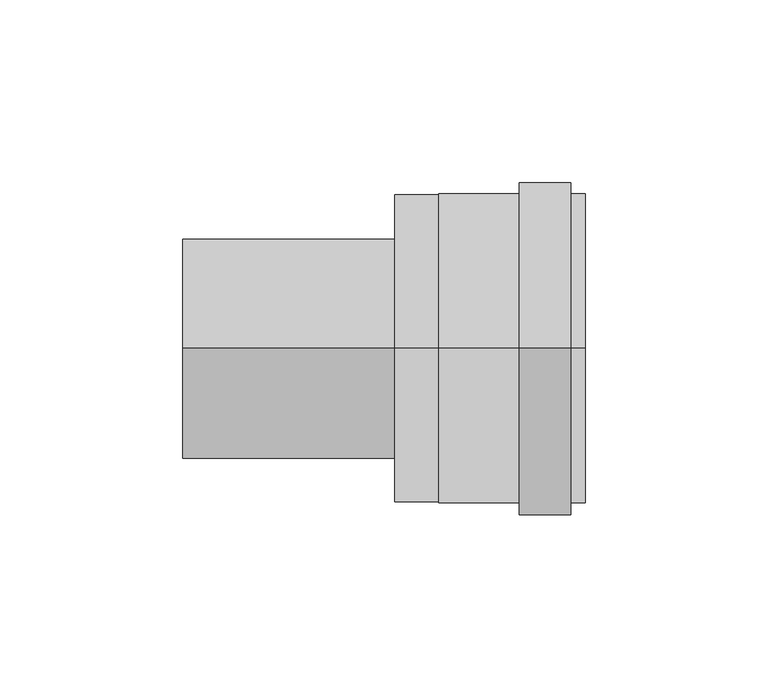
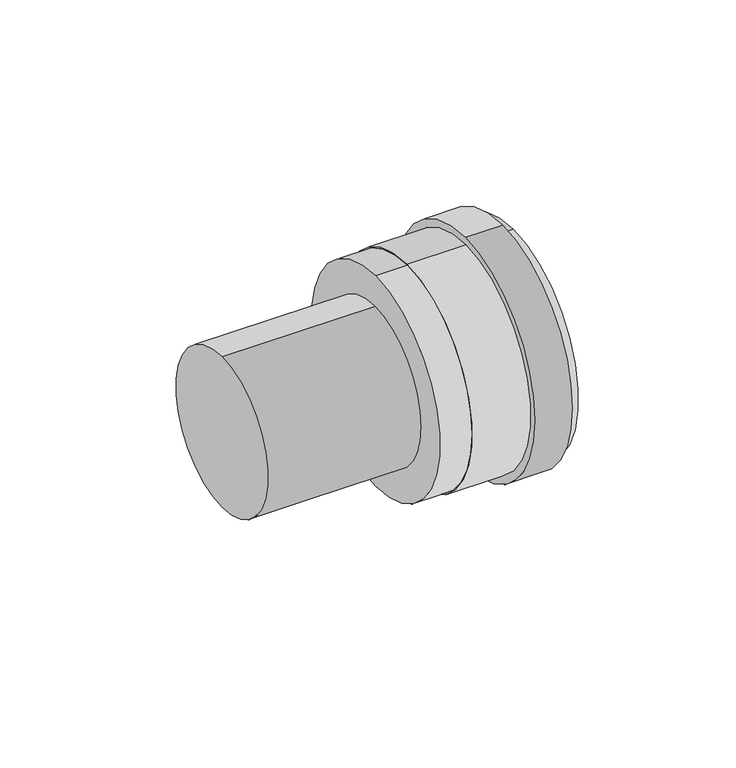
"""IFC4 building model written with IfcOpenShell, lengths in millimetres: duct fitting geometry, RSFen_DUF_UN_Twinline Expander_M&G : ø60-80-100-130-150-200."""

from ifc_helpers import new_model, si_unit, point, frame, origin, origin_2d, place, context, project, spatial, polyline, circle_curve, trimmed, segment, composite_curve, outline, extrude, source, transform, mapped, element, save
from ifc_brep_helpers import plane_surface, cylinder_surface, revolved_surface, advanced_brep


def duct_fitting_32ee2810(model_context):
    return source(origin(), model_context, "Body", "SolidModel", [
        extrude(outline(composite_curve([segment(trimmed(circle_curve(origin_2d(), 45.5), [point((0.0, 45.5))], [point((0.0, -45.5))], False, "CARTESIAN"), True, "CONTINUOUS"), segment(trimmed(circle_curve(origin_2d(), 45.5), [point((0.0, -45.5))], [point((0.0, 45.5))], False, "CARTESIAN"), True, "CONTINUOUS")], self_intersect=False), holes=[composite_curve([segment(trimmed(circle_curve(origin_2d(), 42.5), [point((0.0, -42.5))], [point((0.0, 42.5))], True, "CARTESIAN"), True, "CONTINUOUS"), segment(trimmed(circle_curve(origin_2d(), 42.5), [point((0.0, 42.5))], [point((0.0, -42.5))], True, "CARTESIAN"), True, "CONTINUOUS")], self_intersect=False)]), frame((92.0, 0.0, 0.0), z_axis=(1.0, 0.0, 0.0), x_axis=(0.0, 1.0, 0.0)), (0.0, 0.0, 1.0), 14.0),
        advanced_brep(
        [(110.0, 0.0, 42.5), (110.0, 0.0, -42.5), (110.0, 0.0, -40.0), (110.0, 0.0, 40.0), (70.0, 0.0, 42.5), (70.0, 0.0, -42.5), (70.0, 0.0, -40.0), (70.0, 0.0, 40.0), (58.0, 0.0, 42.0), (58.0, 0.0, -42.0), (70.0, 0.0, -42.0), (70.0, 0.0, 42.0)],
        [
            (0, 1, circle_curve(frame((110.0, 0.0, 0.0), z_axis=(1.0, 0.0, 0.0), x_axis=(0.0, 0.0, -1.0)), 42.5)),
            (1, 0, circle_curve(frame((110.0, 0.0, 0.0), z_axis=(1.0, 0.0, 0.0), x_axis=(0.0, 0.0, -1.0)), 42.5)),
            (2, 3, circle_curve(frame((110.0, 0.0, 0.0), z_axis=(-1.0, 0.0, 0.0), x_axis=(0.0, 0.0, 1.0)), 40.0)),
            (3, 2, circle_curve(frame((110.0, 0.0, 0.0), z_axis=(-1.0, 0.0, 0.0), x_axis=(0.0, 0.0, 1.0)), 40.0)),
            (4, 5, circle_curve(frame((70.0, 0.0, 0.0), z_axis=(1.0, 0.0, 0.0), x_axis=(0.0, 0.0, -1.0)), 42.5)),
            (5, 1),
            (0, 4),
            (5, 4, circle_curve(frame((70.0, 0.0, 0.0), z_axis=(1.0, 0.0, 0.0), x_axis=(0.0, 0.0, -1.0)), 42.5)),
            (2, 6),
            (6, 7, circle_curve(frame((70.0, 0.0, 0.0), z_axis=(-1.0, 0.0, 0.0), x_axis=(0.0, 0.0, 1.0)), 40.0)),
            (7, 3),
            (7, 6, circle_curve(frame((70.0, 0.0, 0.0), z_axis=(-1.0, 0.0, 0.0), x_axis=(0.0, 0.0, 1.0)), 40.0)),
            (8, 9, circle_curve(frame((58.0, 0.0, 0.0), z_axis=(-1.0, 0.0, 0.0), x_axis=(0.0, 0.0, -1.0)), 42.0)),
            (9, 8, circle_curve(frame((58.0, 0.0, 0.0), z_axis=(-1.0, 0.0, 0.0), x_axis=(0.0, 0.0, -1.0)), 42.0)),
            (9, 10),
            (10, 11, circle_curve(frame((70.0, 0.0, 0.0), z_axis=(-1.0, 0.0, 0.0), x_axis=(0.0, 0.0, -1.0)), 42.0)),
            (11, 8),
            (11, 10, circle_curve(frame((70.0, 0.0, 0.0), z_axis=(-1.0, 0.0, 0.0), x_axis=(0.0, 0.0, -1.0)), 42.0)),
        ],
        [
            plane_surface(frame((110.0, 0.0, -42.5), z_axis=(1.0, 0.0, 0.0), x_axis=(0.0, 1.0, 0.0))),
            cylinder_surface(frame((70.0, 0.0, 0.0), z_axis=(1.0, 0.0, 0.0), x_axis=(0.0, 0.0, -1.0)), 42.5),
            revolved_surface(polyline([(70.0, 0.0, 40.0), (110.0, 0.0, 40.0)]), (110.3288528, 0.0, 0.0), (-1.0, 0.0, 0.0)),
            plane_surface(frame((70.0, 0.0, -42.0), z_axis=(1.0, 0.0, 0.0), x_axis=(0.0, 1.0, 0.0))),
            plane_surface(frame((58.0, 0.0, -42.0), z_axis=(-1.0, 0.0, 0.0), x_axis=(0.0, -1.0, 0.0))),
            cylinder_surface(frame((58.0, 0.0, 0.0), z_axis=(1.0, 0.0, 0.0), x_axis=(0.0, 0.0, -1.0)), 42.0),
            plane_surface(frame((70.0, 0.0, -42.5), z_axis=(-1.0, 0.0, 0.0), x_axis=(0.0, -1.0, 0.0))),
        ],
        [
            (0, [[1, 2], [3, 4]]),
            (1, [[5, 6, -1, 7]]),
            (1, [[8, -7, -2, -6]]),
            (2, [[9, 10, 11, -3]]),
            (2, [[-9, -4, -11, 12]]),
            (3, [[-10, -12]]),
            (4, [[13, 14]]),
            (5, [[-14, 15, 16, 17]]),
            (5, [[-13, -17, 18, -15]]),
            (6, [[-8, -5], [-16, -18]]),
        ],
    ),
        extrude(outline(composite_curve([segment(trimmed(circle_curve(origin_2d(), 30.0), [point((0.0, -30.0))], [point((0.0, 30.0))], False, "CARTESIAN"), True, "CONTINUOUS"), segment(trimmed(circle_curve(origin_2d(), 30.0), [point((0.0, 30.0))], [point((0.0, -30.0))], False, "CARTESIAN"), True, "CONTINUOUS")], self_intersect=False)), frame((0.0, 0.0, 0.0), z_axis=(1.0, 0.0, 0.0), x_axis=(0.0, 1.0, 0.0)), (0.0, 0.0, 1.0), 58.0),
    ])


if __name__ == "__main__":
    model = new_model("IFC4")
    model_context = context("Model", 3, world=origin())
    ifc_project = project(units=[si_unit("LENGTHUNIT", "METRE", prefix="MILLI")], contexts=[model_context])
    site = spatial("IfcSite", under=ifc_project)
    building = spatial("IfcBuilding", under=site)
    placement = place(None, origin())
    duct_fitting_shape = duct_fitting_32ee2810(model_context)
    element("IfcDuctFitting", 1, ObjectType="RSFen_DUF_UN_Twinline Expander_M&G : ø60-80-100-130-150-200", at=placement, inside=building, context=model_context, shape_type="MappedRepresentation", body=[
        mapped(duct_fitting_shape, transform((0.0, 0.0, 0.0), x_axis=(1.0, 0.0, 0.0), y_axis=(0.0, 1.0, 0.0), z_axis=(0.0, 0.0, 1.0))),
    ])
    save(model, "model.ifc")
